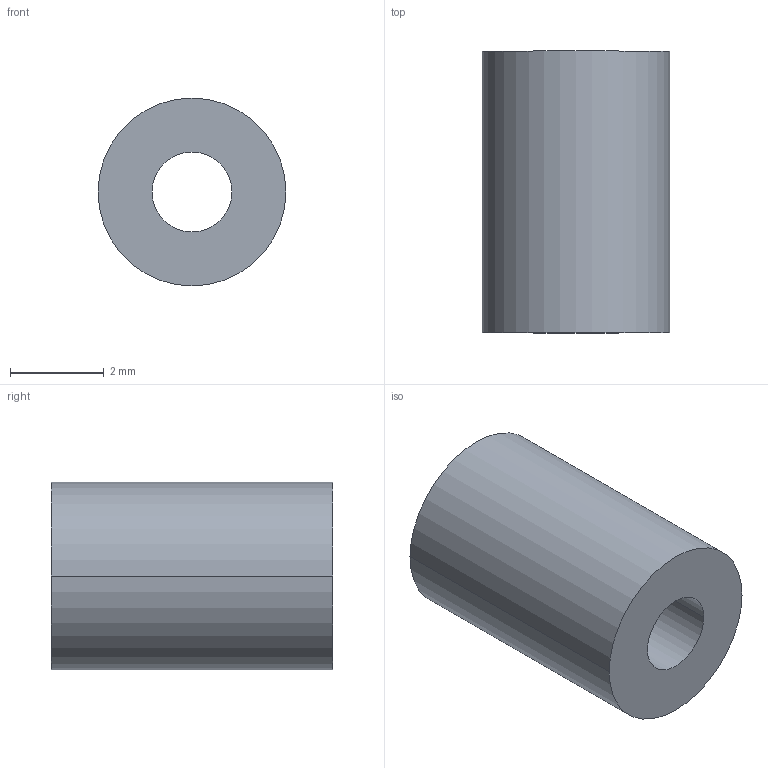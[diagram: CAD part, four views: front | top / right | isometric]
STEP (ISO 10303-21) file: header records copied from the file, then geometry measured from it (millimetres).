
FILE_DESCRIPTION (( 'STEP AP203' ), '1' );
FILE_NAME ('30800.WPP4A1.7.step', '2019-01-23T22:15:04', ( '' ), ( '' ), 'SwSTEP 2.0', 'SolidWorks 2017', '' );
FILE_SCHEMA (( 'CONFIG_CONTROL_DESIGN' ));
Length unit declared in the file: millimetre
Products named in the file (1): 30800.WPP4A1.7
Bounding box: 4 x 6 x 4 mm (x, y, z)
Volume: 60.3 mm3; surface area: 126.2 mm2
Topology: 1 solids, 1 shells, 8 faces, 16 edges, 10 vertices
Faces by surface type: cylinder 4, torus 2, plane 2
Entity records: 297 total; most frequent: DIRECTION 46, CARTESIAN_POINT 35, ORIENTED_EDGE 32, AXIS2_PLACEMENT_3D 21, EDGE_CURVE 16, CIRCLE 12, VERTEX_POINT 10, EDGE_LOOP 10
